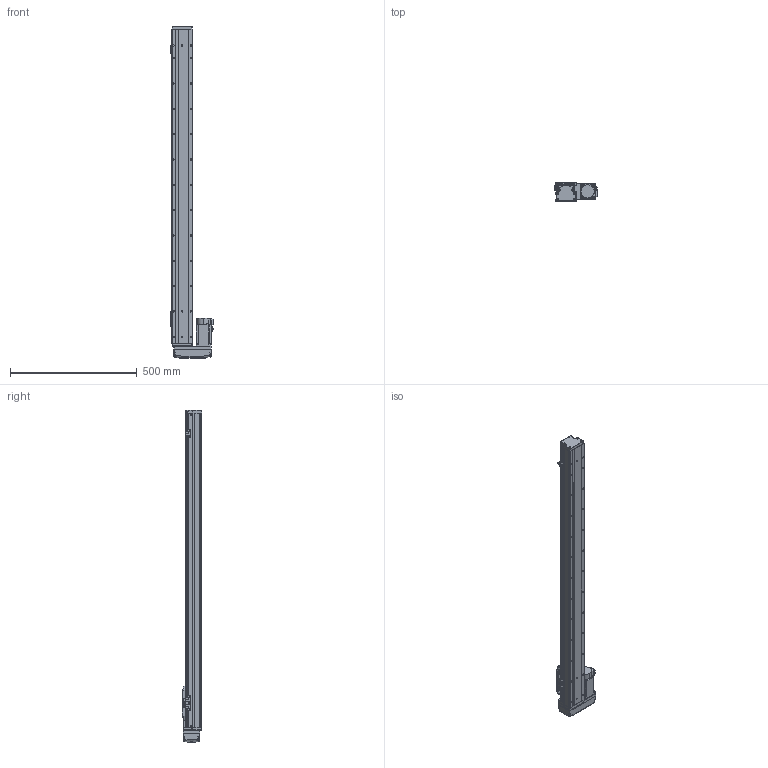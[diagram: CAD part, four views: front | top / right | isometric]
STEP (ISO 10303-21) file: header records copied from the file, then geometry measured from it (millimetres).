
FILE_DESCRIPTION (( 'STEP AP203' ), '1' );
FILE_NAME ('GTH8-1050-BR-M20-C4.step', '2022-09-23T01:08:55', ( '微软用户' ), ( '微软中国' ), 'SwSTEP 2.0', 'SolidWorks 2020', '' );
FILE_SCHEMA (( 'CONFIG_CONTROL_DESIGN' ));
Length unit declared in the file: millimetre
Products named in the file (18): GTH80-022; BTH-M3X5X6; GBT96.1-2002 3×0.8; GTH80-001_1050; GBT 70.1-M3℅6; hg-kn43j_-s100_; GTH80-003; GBT 70.1-M4×16; CTHA86-015-1_CTHA86-015-2; GTH80-004; GTH80-028; CTHA86-033_M40B; GTH80-006; GTH50-024; GTH8-1050-BR-M20-C4; GTH80-013; GTH50-023; GBT 70.3-M3℅6
Assembly tree (57 placements, depth 2):
  GTH8-1050-BR-M20-C4
    GTH80-001_1050
    GTH80-003
    GTH80-004
    GTH80-006
    GTH80-013
    GBT 70.3-M3℅6  x4
    GTH80-022
    GBT 70.1-M3℅6  x14
    GBT 70.1-M4×16  x8
    GTH80-028  x2
    GTH50-024  x3
    GTH50-023  x3
    GBT96.1-2002 3×0.8  x6
    BTH-M3X5X6  x8
    hg-kn43j_-s100_
    CTHA86-015-1_CTHA86-015-2
    CTHA86-033_M40B
Bounding box: 169.7 x 78 x 1311 mm (x, y, z)
Volume: 6355659.5 mm3; surface area: 614518.2 mm2
Topology: 59 solids, 59 shells, 2260 faces, 5235 edges, 3211 vertices
Faces by surface type: plane 1187, cylinder 631, cone 260, torus 166, bspline 8, sphere 8
Entity records: 41662 total; most frequent: CARTESIAN_POINT 7313, DIRECTION 6789, ORIENTED_EDGE 6288, EDGE_CURVE 3144, AXIS2_PLACEMENT_3D 2385, VECTOR 2019, LINE 2019, VERTEX_POINT 1986
